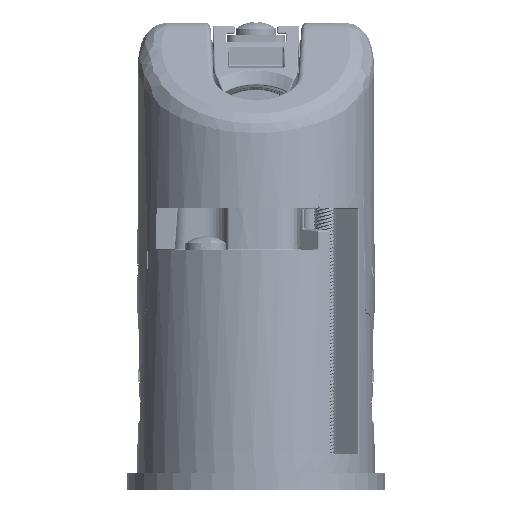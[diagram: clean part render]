
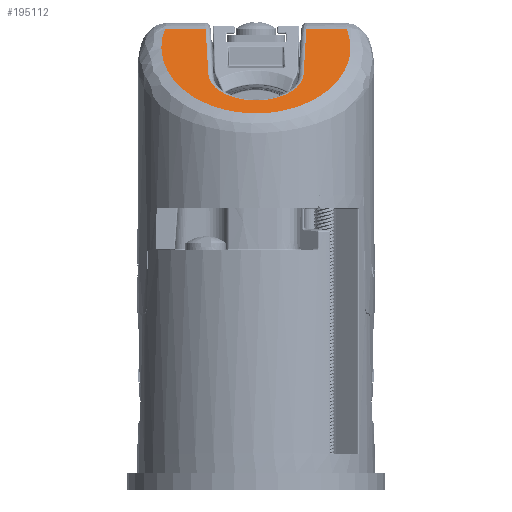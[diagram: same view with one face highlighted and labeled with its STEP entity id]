
A CAD part, top view. The second image highlights one B-rep face of the part: STEP entity #195112.
In plain terms, the highlighted planar face has unit normal (0, 0.819, 0.574) as drawn and (0, 0.819, -0.574) by its records, which use the part's own axes.
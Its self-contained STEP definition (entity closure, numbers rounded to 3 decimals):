
#165252=CARTESIAN_POINT('',(-13.338,44.504,
1.905));
#165702=CARTESIAN_POINT('',(13.338,44.504,
1.905));
#165725=DIRECTION('',(-0.035,0.573,0.819));
#165726=VECTOR('',#165725,11.683);
#165727=CARTESIAN_POINT('',(-6.991,37.807,
-7.659));
#165728=LINE('',#165727,#165726);
#165732=DIRECTION('',(-1.,0.,0.));
#165733=VECTOR('',#165732,5.939);
#165734=CARTESIAN_POINT('',(-7.399,44.504,
1.905));
#165735=LINE('',#165734,#165733);
#165739=CARTESIAN_POINT('',(-13.338,44.504,
1.905));
#165740=CARTESIAN_POINT('',(-13.548,44.003,
1.189));
#165741=CARTESIAN_POINT('',(-13.827,43.041,
-0.185));
#165742=CARTESIAN_POINT('',(-13.937,41.74,
-2.043));
#165743=CARTESIAN_POINT('',(-13.824,40.567,
-3.718));
#165744=CARTESIAN_POINT('',(-13.558,39.547,
-5.176));
#165745=CARTESIAN_POINT('',(-13.193,38.66,
-6.442));
#165746=CARTESIAN_POINT('',(-12.758,37.872,
-7.567));
#165747=CARTESIAN_POINT('',(-12.251,37.143,
-8.608));
#165748=CARTESIAN_POINT('',(-11.655,36.44,
-9.612));
#165749=CARTESIAN_POINT('',(-10.965,35.764,
-10.577));
#165750=CARTESIAN_POINT('',(-10.2,35.136,
-11.475));
#165751=CARTESIAN_POINT('',(-9.366,34.557,
-12.301));
#165752=CARTESIAN_POINT('',(-8.458,34.026,
-13.059));
#165753=CARTESIAN_POINT('',(-7.483,33.549,
-13.742));
#165754=CARTESIAN_POINT('',(-6.452,33.131,
-14.339));
#165755=CARTESIAN_POINT('',(-5.372,32.775,
-14.846));
#165756=CARTESIAN_POINT('',(-4.246,32.484,
-15.261));
#165757=CARTESIAN_POINT('',(-3.08,32.261,
-15.58));
#165758=CARTESIAN_POINT('',(-1.883,32.109,
-15.797));
#165759=CARTESIAN_POINT('',(-0.666,32.031,
-15.909));
#165760=CARTESIAN_POINT('',(0.555,32.027,
-15.914));
#165761=CARTESIAN_POINT('',(1.772,32.099,
-15.812));
#165762=CARTESIAN_POINT('',(2.968,32.244,
-15.605));
#165763=CARTESIAN_POINT('',(4.131,32.459,
-15.297));
#165764=CARTESIAN_POINT('',(5.257,32.742,
-14.894));
#165765=CARTESIAN_POINT('',(6.345,33.092,
-14.394));
#165766=CARTESIAN_POINT('',(7.379,33.503,
-13.807));
#165767=CARTESIAN_POINT('',(8.351,33.97,
-13.14));
#165768=CARTESIAN_POINT('',(9.263,34.493,
-12.393));
#165769=CARTESIAN_POINT('',(10.113,35.07,
-11.568));
#165770=CARTESIAN_POINT('',(10.879,35.688,
-10.686));
#165771=CARTESIAN_POINT('',(11.565,36.344,
-9.749));
#165772=CARTESIAN_POINT('',(12.199,37.072,
-8.71));
#165773=CARTESIAN_POINT('',(12.794,37.916,
-7.504));
#165774=CARTESIAN_POINT('',(13.33,38.929,
-6.058));
#165775=CARTESIAN_POINT('',(13.737,40.105,
-4.378));
#165776=CARTESIAN_POINT('',(13.946,41.474,
-2.423));
#165777=CARTESIAN_POINT('',(13.848,42.983,
-0.269));
#165778=CARTESIAN_POINT('',(13.552,43.993,
1.174));
#165779=CARTESIAN_POINT('',(13.338,44.504,
1.905));
#165784=DIRECTION('',(-1.,0.,0.));
#165785=VECTOR('',#165784,5.939);
#165786=CARTESIAN_POINT('',(13.338,44.504,
1.905));
#165787=LINE('',#165786,#165785);
#165791=DIRECTION('',(-0.035,-0.573,
-0.819));
#165792=VECTOR('',#165791,11.683);
#165793=CARTESIAN_POINT('',(7.399,44.504,
1.905));
#165794=LINE('',#165793,#165792);
#165798=CARTESIAN_POINT('',(0.,37.948,-7.459));
#165799=DIRECTION('',(0.,0.819,-0.574));
#165800=DIRECTION('',(0.999,-0.02,-0.029));
#165801=AXIS2_PLACEMENT_3D('',#165798,#165799,#165800);
#173055=VERTEX_POINT('',#165702);
#173066=VERTEX_POINT('',#165252);
#173225=CARTESIAN_POINT('',(-6.991,37.807,
-7.659));
#173226=CARTESIAN_POINT('',(-7.399,44.504,
1.905));
#173227=VERTEX_POINT('',#173225);
#173228=VERTEX_POINT('',#173226);
#173231=CARTESIAN_POINT('',(6.991,37.807,
-7.659));
#173232=VERTEX_POINT('',#173231);
#173235=CARTESIAN_POINT('',(7.399,44.504,
1.905));
#173236=VERTEX_POINT('',#173235);
#195098=CARTESIAN_POINT('',(-16.832,30.987,-17.4));
#195099=DIRECTION('',(0.,0.819,-0.574));
#195100=DIRECTION('',(0.,0.574,0.819));
#195101=AXIS2_PLACEMENT_3D('',#195098,#195099,#195100);
#195102=PLANE('',#195101);
#195103=ORIENTED_EDGE('',*,*,#194139,.T.);
#195104=ORIENTED_EDGE('',*,*,#194294,.T.);
#195106=ORIENTED_EDGE('',*,*,#195105,.T.);
#195107=ORIENTED_EDGE('',*,*,#195015,.T.);
#195108=ORIENTED_EDGE('',*,*,#194087,.T.);
#195109=ORIENTED_EDGE('',*,*,#194113,.T.);
#195110=EDGE_LOOP('',(#195103,#195104,#195106,#195107,#195108,#195109));
#195111=FACE_OUTER_BOUND('',#195110,.F.);
#165780=B_SPLINE_CURVE_WITH_KNOTS('',3,(#165739,#165740,#165741,#165742,#165743,
#165744,#165745,#165746,#165747,#165748,#165749,#165750,#165751,#165752,#165753,
#165754,#165755,#165756,#165757,#165758,#165759,#165760,#165761,#165762,#165763,
#165764,#165765,#165766,#165767,#165768,#165769,#165770,#165771,#165772,#165773,
#165774,#165775,#165776,#165777,#165778,#165779),.UNSPECIFIED.,.F.,.F.,(4,1,1,1,
1,1,1,1,1,1,1,1,1,1,1,1,1,1,1,1,1,1,1,1,1,1,1,1,1,1,1,1,1,1,1,1,1,1,4),(0.,
0.026,0.053,0.079,0.105,
0.132,0.158,0.184,0.211,
0.237,0.263,0.289,0.316,
0.342,0.368,0.395,0.421,
0.447,0.474,0.5,0.526,0.553,
0.579,0.605,0.632,0.658,
0.684,0.711,0.737,0.763,
0.789,0.816,0.842,0.868,
0.895,0.921,0.947,0.974,1.),
.UNSPECIFIED.);
#165802=CIRCLE('',#165801,6.996);
#194087=EDGE_CURVE('',#173236,#173232,#165794,.T.);
#194113=EDGE_CURVE('',#173232,#173227,#165802,.T.);
#194139=EDGE_CURVE('',#173227,#173228,#165728,.T.);
#194294=EDGE_CURVE('',#173228,#173066,#165735,.T.);
#195015=EDGE_CURVE('',#173055,#173236,#165787,.T.);
#195105=EDGE_CURVE('',#173066,#173055,#165780,.T.);
#195112=ADVANCED_FACE('',(#195111),#195102,.T.);
